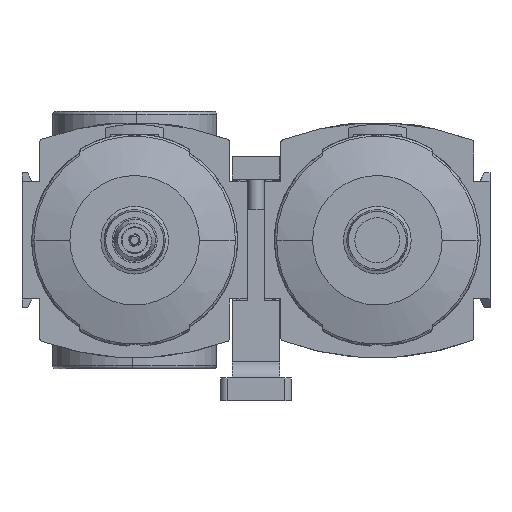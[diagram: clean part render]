
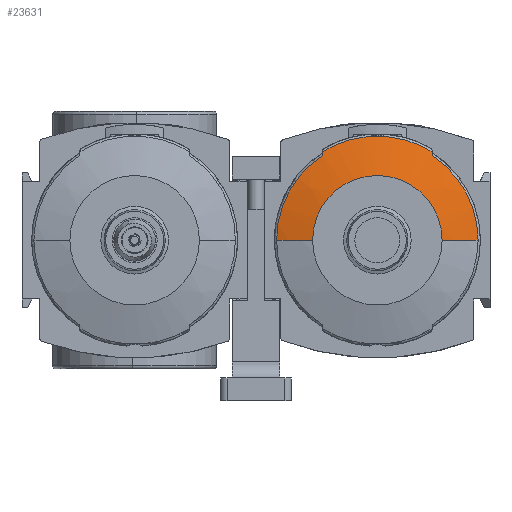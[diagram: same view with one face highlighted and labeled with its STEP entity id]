
A CAD part, front view. The second image highlights one B-rep face of the part: STEP entity #23631.
In plain terms, the highlighted spherical face has radius 102.2 mm.
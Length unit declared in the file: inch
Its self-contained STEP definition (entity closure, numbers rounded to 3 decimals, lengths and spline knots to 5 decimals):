
#19649=SPHERICAL_SURFACE('',#71770,4.02362);
#23631=ADVANCED_FACE('',(#28176),#19649,.T.);
#28176=FACE_OUTER_BOUND('',#31379,.T.);
#31379=EDGE_LOOP('',(#40546,#40547,#40548,#40549,#40550,#40551,#40552,#40553,
#40554));
#33627=CIRCLE('',#71684,3.96757);
#33629=CIRCLE('',#71689,3.96757);
#33652=CIRCLE('',#71737,1.27229);
#33654=CIRCLE('',#71744,1.23253);
#33661=CIRCLE('',#71765,4.02362);
#33662=CIRCLE('',#71766,0.79211);
#33663=CIRCLE('',#71767,4.02362);
#33664=CIRCLE('',#71768,1.23253);
#33665=CIRCLE('',#71769,1.27229);
#40546=ORIENTED_EDGE('',*,*,#56994,.F.);
#40547=ORIENTED_EDGE('',*,*,#56995,.T.);
#40548=ORIENTED_EDGE('',*,*,#56996,.T.);
#40549=ORIENTED_EDGE('',*,*,#56997,.T.);
#40550=ORIENTED_EDGE('',*,*,#56906,.T.);
#40551=ORIENTED_EDGE('',*,*,#56964,.T.);
#40552=ORIENTED_EDGE('',*,*,#56998,.T.);
#40553=ORIENTED_EDGE('',*,*,#56899,.T.);
#40554=ORIENTED_EDGE('',*,*,#56973,.T.);
#51172=VERTEX_POINT('',#99930);
#51174=VERTEX_POINT('',#99951);
#51178=VERTEX_POINT('',#99982);
#51179=VERTEX_POINT('',#99984);
#51205=VERTEX_POINT('',#100172);
#51207=VERTEX_POINT('',#100200);
#51216=VERTEX_POINT('',#100250);
#51217=VERTEX_POINT('',#100252);
#51218=VERTEX_POINT('',#100254);
#56899=EDGE_CURVE('',#51172,#51174,#33627,.T.);
#56906=EDGE_CURVE('',#51179,#51178,#33629,.T.);
#56964=EDGE_CURVE('',#51178,#51205,#33652,.T.);
#56973=EDGE_CURVE('',#51174,#51207,#33654,.T.);
#56994=EDGE_CURVE('',#51216,#51207,#33661,.T.);
#56995=EDGE_CURVE('',#51216,#51217,#33662,.T.);
#56996=EDGE_CURVE('',#51217,#51218,#33663,.T.);
#56997=EDGE_CURVE('',#51218,#51179,#33664,.T.);
#56998=EDGE_CURVE('',#51205,#51172,#33665,.T.);
#71684=AXIS2_PLACEMENT_3D('',#99952,#79373,#79374);
#71689=AXIS2_PLACEMENT_3D('',#99983,#79386,#79387);
#71737=AXIS2_PLACEMENT_3D('',#100173,#79511,#79512);
#71744=AXIS2_PLACEMENT_3D('',#100201,#79531,#79532);
#71765=AXIS2_PLACEMENT_3D('',#100249,#79586,#79587);
#71766=AXIS2_PLACEMENT_3D('',#100251,#79588,#79589);
#71767=AXIS2_PLACEMENT_3D('',#100253,#79590,#79591);
#71768=AXIS2_PLACEMENT_3D('',#100255,#79592,#79593);
#71769=AXIS2_PLACEMENT_3D('',#100256,#79594,#79595);
#71770=AXIS2_PLACEMENT_3D('',#100257,#79596,#79597);
#79373=DIRECTION('',(1.,0.,0.));
#79374=DIRECTION('',(0.,0.,-1.));
#79386=DIRECTION('',(-1.,0.,0.));
#79387=DIRECTION('',(0.,0.,1.));
#79511=DIRECTION('',(0.,-1.,0.));
#79512=DIRECTION('',(0.,0.,1.));
#79531=DIRECTION('',(0.,-1.,0.));
#79532=DIRECTION('',(0.,0.,1.));
#79586=DIRECTION('',(0.,0.,-1.));
#79587=DIRECTION('',(-1.,0.,0.));
#79588=DIRECTION('',(0.,1.,0.));
#79589=DIRECTION('',(0.,0.,1.));
#79590=DIRECTION('',(0.,0.,1.));
#79591=DIRECTION('',(1.,0.,0.));
#79592=DIRECTION('',(0.,-1.,0.));
#79593=DIRECTION('',(0.,0.,1.));
#79594=DIRECTION('',(0.,-1.,0.));
#79595=DIRECTION('',(0.,0.,1.));
#79596=DIRECTION('',(0.,0.,1.));
#79597=DIRECTION('',(1.,0.,0.));
#99930=CARTESIAN_POINT('',(2.29921,-3.62032,1.08202));
#99951=CARTESIAN_POINT('',(2.29921,-3.63335,1.03498));
#99952=CARTESIAN_POINT('',(2.29921,0.19685,0.));
#99982=CARTESIAN_POINT('',(3.6378,-3.62032,1.08202));
#99983=CARTESIAN_POINT('',(3.6378,0.19685,0.));
#99984=CARTESIAN_POINT('',(3.6378,-3.63335,1.03498));
#100172=CARTESIAN_POINT('',(2.9685,-3.62032,1.27229));
#100173=CARTESIAN_POINT('',(2.9685,-3.62032,0.));
#100200=CARTESIAN_POINT('',(1.73597,-3.63335,0.));
#100201=CARTESIAN_POINT('',(2.9685,-3.63335,0.));
#100249=CARTESIAN_POINT('',(2.9685,0.19685,0.));
#100250=CARTESIAN_POINT('',(2.17639,-3.74803,0.));
#100251=CARTESIAN_POINT('',(2.9685,-3.74803,0.));
#100252=CARTESIAN_POINT('',(3.76062,-3.74803,0.));
#100253=CARTESIAN_POINT('',(2.9685,0.19685,0.));
#100254=CARTESIAN_POINT('',(4.20104,-3.63335,0.));
#100255=CARTESIAN_POINT('',(2.9685,-3.63335,0.));
#100256=CARTESIAN_POINT('',(2.9685,-3.62032,0.));
#100257=CARTESIAN_POINT('',(2.9685,0.19685,0.));
